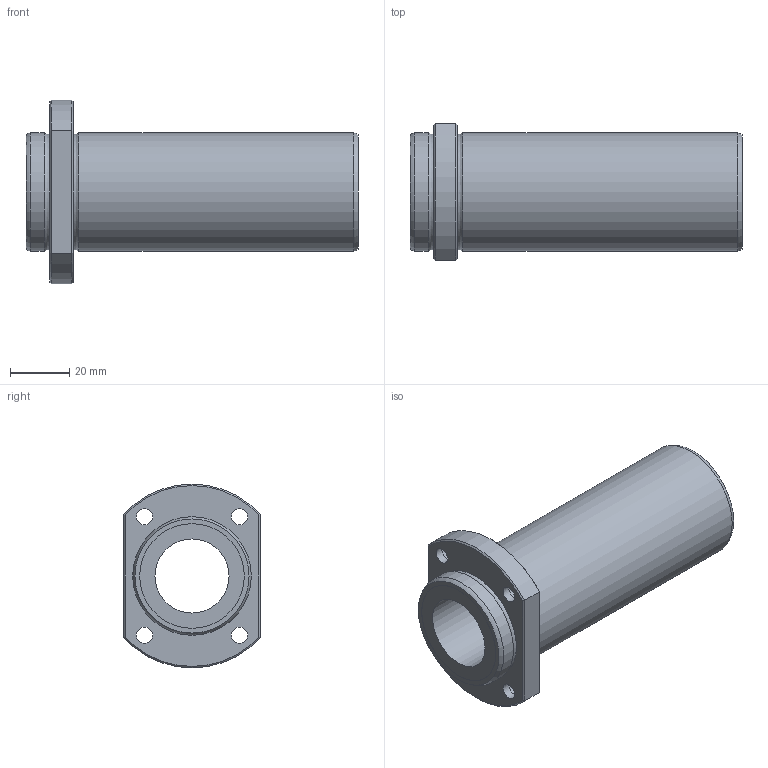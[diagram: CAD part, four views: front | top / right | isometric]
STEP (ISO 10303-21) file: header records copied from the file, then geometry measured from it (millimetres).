
FILE_DESCRIPTION((''),'2;1');
FILE_NAME('D:\製品 (図面)\カタログ用3D\リニアベアリング関連\STEP形式\LFDTB\LFDTB25B.stp','2010-06-03T09:52:32',('Tsuchiya'),(''),'Autodesk Inventor 10','Autodesk Inventor 10','');
FILE_SCHEMA(('AUTOMOTIVE_DESIGN { 1 0 10303 214 1 1 1 1 }'));
Length unit declared in the file: millimetre
Products named in the file (1): LFDTB25B
Bounding box: 112 x 46 x 62 mm (x, y, z)
Volume: 94176.3 mm3; surface area: 27983 mm2
Topology: 1 solids, 1 shells, 39 faces, 75 edges, 46 vertices
Faces by surface type: bspline 14, plane 12, cylinder 7, cone 4, torus 2
Full cylindrical faces by diameter (mm): 25 x1, 35.3 x2, 40 x2
Entity records: 1177 total; most frequent: CARTESIAN_POINT 440, DIRECTION 140, ORIENTED_EDGE 116, EDGE_LOOP 74, AXIS2_PLACEMENT_3D 64, EDGE_CURVE 58, VERTEX_POINT 46, FACE_OUTER_BOUND 39
